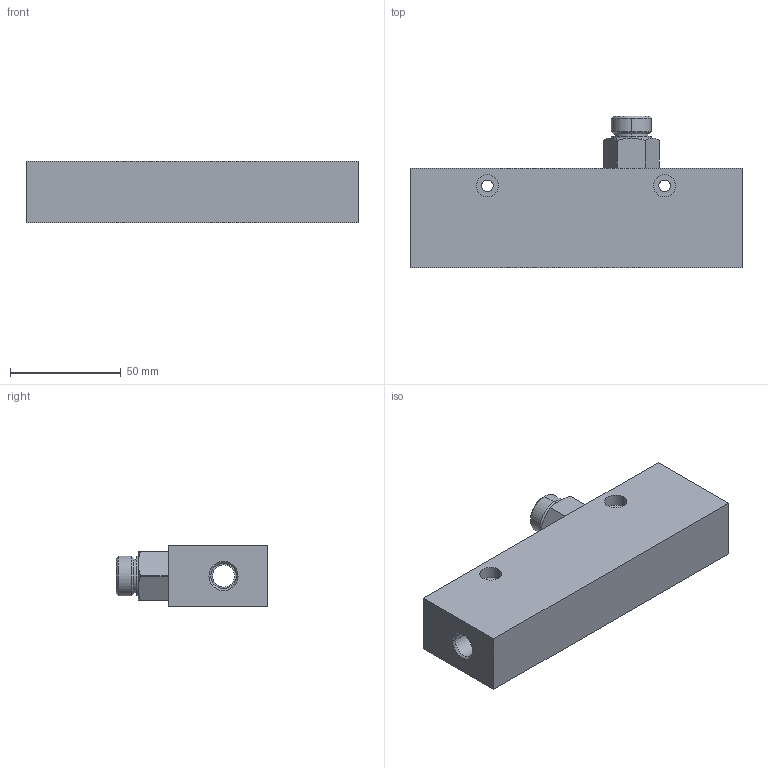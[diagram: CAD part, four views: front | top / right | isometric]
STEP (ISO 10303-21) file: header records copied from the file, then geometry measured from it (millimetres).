
FILE_DESCRIPTION( ( '' ), '1' );
FILE_NAME( '//expscmdclustefs.cadenas.external/client_exchange/iodir/jobs/output/wkb55285073_no0/STEP/E40161_2_03.stp', '2013-03-07T13:56:33', ( '' ), ( '' ), ' ', ' ', ' ' );
FILE_SCHEMA( ( 'CONFIG_CONTROL_DESIGN' ) );
Length unit declared in the file: millimetre
Products named in the file (2): 1; 2
Bounding box: 150 x 68.5 x 28 mm (x, y, z)
Volume: 179029 mm3; surface area: 34812.5 mm2
Topology: 2 solids, 2 shells, 88 faces, 203 edges, 130 vertices
Faces by surface type: cylinder 38, plane 28, cone 22
Entity records: 2739 total; most frequent: CARTESIAN_POINT 579, DIRECTION 467, ORIENTED_EDGE 406, EDGE_CURVE 203, AXIS2_PLACEMENT_3D 190, VERTEX_POINT 130, EDGE_LOOP 109, CIRCLE 100
